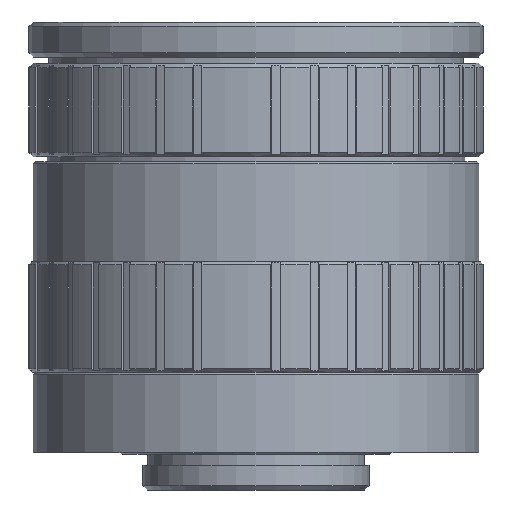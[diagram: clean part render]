
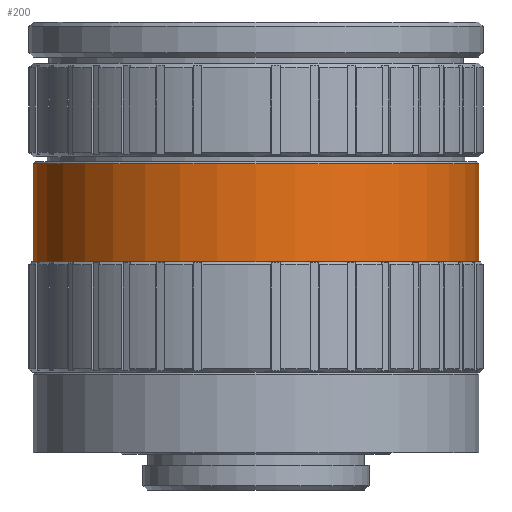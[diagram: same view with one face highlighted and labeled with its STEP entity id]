
A CAD part, front view. The second image highlights one B-rep face of the part: STEP entity #200.
In plain terms, the highlighted cylindrical face has radius 25 mm (diameter 50 mm), a partial arc.
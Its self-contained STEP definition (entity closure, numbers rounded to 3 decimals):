
#200 = ADVANCED_FACE ( 'NONE', ( #11923 ), #11653, .T. ) ;
#284 = DIRECTION ( 'NONE',  ( 0., 0., -1. ) ) ;
#375 = CARTESIAN_POINT ( 'NONE',  ( -25., 0., 21.6 ) ) ;
#534 = VERTEX_POINT ( 'NONE', #7854 ) ;
#583 = AXIS2_PLACEMENT_3D ( 'NONE', #7730, #2059, #1097 ) ;
#791 = DIRECTION ( 'NONE',  ( 0., 0., -1. ) ) ;
#1005 = EDGE_CURVE ( 'NONE', #6291, #10079, #8141, .T. ) ;
#1097 = DIRECTION ( 'NONE',  ( -1., 0., 0. ) ) ;
#1154 = AXIS2_PLACEMENT_3D ( 'NONE', #6481, #791, #7433 ) ;
#1387 = VERTEX_POINT ( 'NONE', #9730 ) ;
#1530 = EDGE_CURVE ( 'NONE', #1387, #534, #7846, .T. ) ;
#1538 = EDGE_CURVE ( 'NONE', #1387, #6291, #10221, .T. ) ;
#2059 = DIRECTION ( 'NONE',  ( 0., 0., -1. ) ) ;
#2808 = VECTOR ( 'NONE', #284, 1000. ) ;
#3296 = ORIENTED_EDGE ( 'NONE', *, *, #1005, .F. ) ;
#3810 = CARTESIAN_POINT ( 'NONE',  ( -25., 0., -2.541 ) ) ;
#4029 = CARTESIAN_POINT ( 'NONE',  ( 25., 0., 21.6 ) ) ;
#4489 = AXIS2_PLACEMENT_3D ( 'NONE', #10525, #5029, #11431 ) ;
#5029 = DIRECTION ( 'NONE',  ( 0., 0., -1. ) ) ;
#6291 = VERTEX_POINT ( 'NONE', #4029 ) ;
#6481 = CARTESIAN_POINT ( 'NONE',  ( 0., 0., 21.6 ) ) ;
#6710 = ORIENTED_EDGE ( 'NONE', *, *, #1538, .F. ) ;
#7348 = EDGE_CURVE ( 'NONE', #534, #10079, #8293, .T. ) ;
#7433 = DIRECTION ( 'NONE',  ( -1., 0., 0. ) ) ;
#7730 = CARTESIAN_POINT ( 'NONE',  ( 0., 0., -2.541 ) ) ;
#7837 = ORIENTED_EDGE ( 'NONE', *, *, #7348, .T. ) ;
#7846 = CIRCLE ( 'NONE', #4489, 25. ) ;
#7854 = CARTESIAN_POINT ( 'NONE',  ( -25., 0., 32.63 ) ) ;
#7995 = ORIENTED_EDGE ( 'NONE', *, *, #1530, .T. ) ;
#8141 = CIRCLE ( 'NONE', #1154, 25. ) ;
#8293 = LINE ( 'NONE', #3810, #10950 ) ;
#8676 = EDGE_LOOP ( 'NONE', ( #6710, #7995, #7837, #3296 ) ) ;
#9050 = CARTESIAN_POINT ( 'NONE',  ( 25., 0., -2.541 ) ) ;
#9730 = CARTESIAN_POINT ( 'NONE',  ( 25., 0., 32.63 ) ) ;
#10079 = VERTEX_POINT ( 'NONE', #375 ) ;
#10221 = LINE ( 'NONE', #9050, #2808 ) ;
#10292 = DIRECTION ( 'NONE',  ( 0., 0., -1. ) ) ;
#10525 = CARTESIAN_POINT ( 'NONE',  ( 0., 0., 32.63 ) ) ;
#10950 = VECTOR ( 'NONE', #10292, 1000. ) ;
#11431 = DIRECTION ( 'NONE',  ( -1., 0., 0. ) ) ;
#11653 = CYLINDRICAL_SURFACE ( 'NONE', #583, 25. ) ;
#11923 = FACE_OUTER_BOUND ( 'NONE', #8676, .T. ) ;
